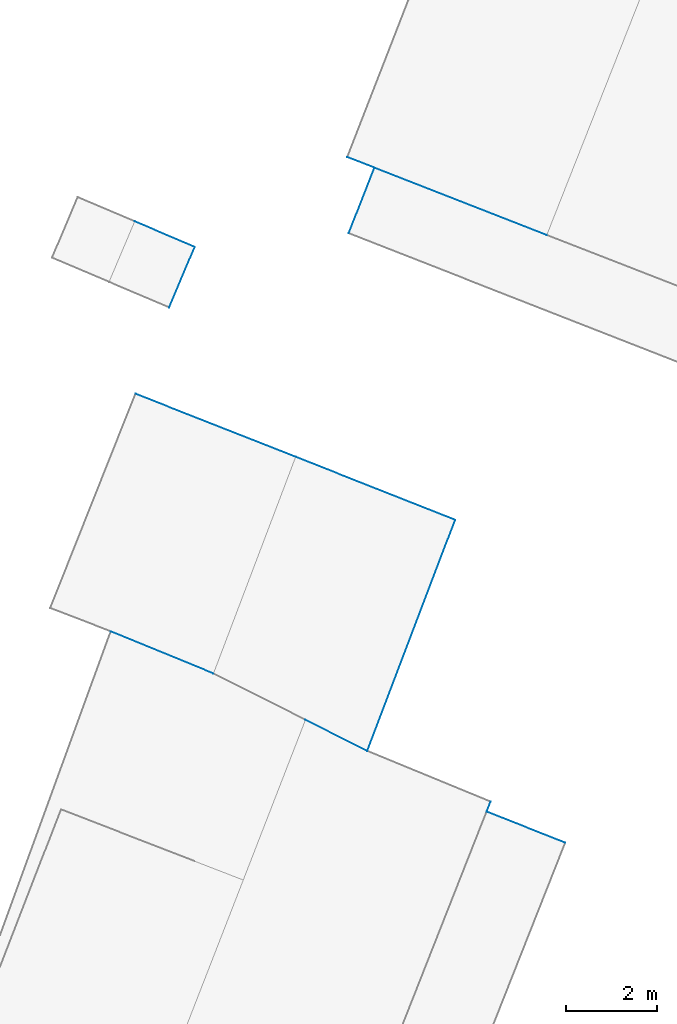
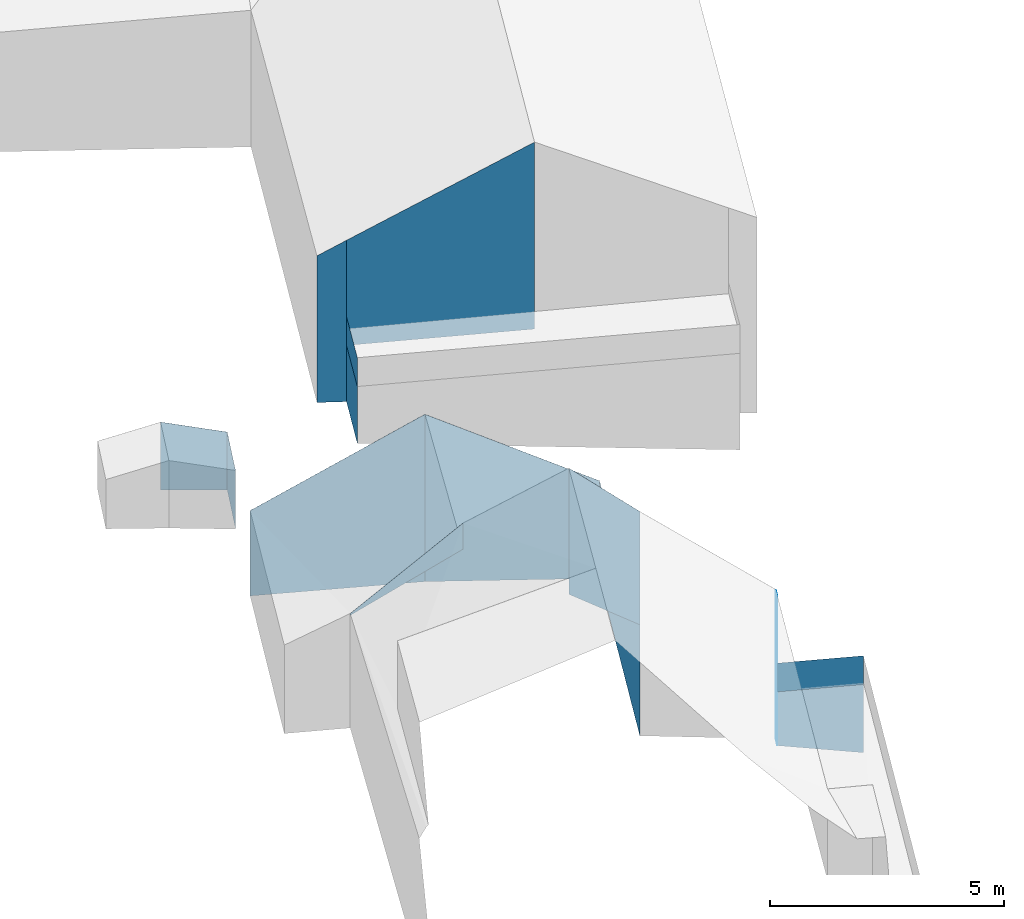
# Not in any storey, part 33 of 57: 17 walls.
"""IFC4 building model written with IfcOpenShell, lengths in metres."""

import ifcopenshell
import ifcopenshell.guid

model = None  # the IFC model being written
_history = None  # IfcOwnerHistory: only IFC2X3 demands one
_inside = {}  # id of a spatial element -> (the spatial element, [elements in it])
_under = {}  # id of a project, library or spatial element -> (it, [spatial elements below it])
_declared = {}  # id of a project -> (the project, [libraries it declares])
_typed = {}  # id of a type object -> (the type object, [elements of that type])
_made_of = {}  # id of a material, layer set ... -> (it, [elements and type objects made of it])


def new_model(schema):
    """Start an empty IFC model of exactly this schema.

    Asked for "IFC4X3", IfcOpenShell would pick the latest addendum, in which some entities
    have other attributes; the version numbers below select the first issue.
    IFC2X3 requires an IfcOwnerHistory on every rooted entity: one is made here for all.
    """
    global model, _history
    if schema == "IFC4X3":
        model = ifcopenshell.file(schema_version=(4, 3, 0, 0))
    else:
        model = ifcopenshell.file(schema=schema)
    _inside.clear()
    _under.clear()
    _declared.clear()
    _typed.clear()
    _made_of.clear()
    _history = None
    if model.schema == "IFC2X3":
        org = make("IfcOrganization", Name="unknown")
        user = make(
            "IfcPersonAndOrganization",
            ThePerson=make("IfcPerson", FamilyName="unknown"),
            TheOrganization=org,
        )
        app = make(
            "IfcApplication",
            ApplicationDeveloper=org,
            Version="unknown",
            ApplicationFullName="unknown",
            ApplicationIdentifier="unknown",
        )
        _history = make(
            "IfcOwnerHistory",
            OwningUser=user,
            OwningApplication=app,
            ChangeAction="ADDED",
            CreationDate=0,
        )
    return model


def make(cls, **values):
    """One entity of the class cls with the attributes given. An attribute that is None is left unset."""
    return model.create_entity(
        cls, **{name: value for name, value in values.items() if value is not None}
    )


def entity(cls, *values):
    """Any entity or typed value of the class cls, its attributes in the order of the schema. None: left unset."""
    e = model.create_entity(cls)
    for i, value in enumerate(values):
        if value is not None:
            e[i] = value
    return e


def rooted(cls, **values):
    """An entity with a GlobalId (a new one), such as an element, a storey or a relation."""
    return make(cls, GlobalId=ifcopenshell.guid.new(), OwnerHistory=_history, **values)


def si_unit(unit_type, name, prefix=None):
    """IfcSIUnit, for example si_unit("LENGTHUNIT", "METRE", prefix="MILLI")."""
    return make("IfcSIUnit", UnitType=unit_type, Prefix=prefix, Name=name)


def converted_unit(unit_type, name, factor, base, dimensions=None, offset=None):
    """IfcConversionBasedUnit, such as the inch: factor (a typed value) times the base unit."""
    return make(
        "IfcConversionBasedUnit"
        if offset is None
        else "IfcConversionBasedUnitWithOffset",
        ConversionOffset=offset,
        Dimensions=None
        if dimensions is None
        else entity("IfcDimensionalExponents", *dimensions),
        UnitType=unit_type,
        Name=name,
        ConversionFactor=make(
            "IfcMeasureWithUnit", ValueComponent=factor, UnitComponent=base
        ),
    )


def assignment(units):
    """IfcUnitAssignment: the units of a project."""
    return None if units is None else make("IfcUnitAssignment", Units=units)


def point(xyz):
    """IfcCartesianPoint."""
    return None if xyz is None else make("IfcCartesianPoint", Coordinates=xyz)


def direction(xyz):
    """IfcDirection."""
    return None if xyz is None else make("IfcDirection", DirectionRatios=xyz)


def frame(location, z_axis=None, x_axis=None):
    """IfcAxis2Placement3D, a coordinate frame: its origin and axes. An axis left out is left unset."""
    return make(
        "IfcAxis2Placement3D",
        Location=point(location),
        Axis=direction(z_axis),
        RefDirection=direction(x_axis),
    )


def origin():
    """The frame at (0, 0, 0) with its axes left unset."""
    return frame((0.0, 0.0, 0.0))


def place(relative_to, where):
    """IfcLocalPlacement: puts the frame where relative to a parent placement (None: the world)."""
    return make(
        "IfcLocalPlacement", PlacementRelTo=relative_to, RelativePlacement=where
    )


def context(
    kind, dimensions, precision=None, world=None, true_north=None, identifier=None
):
    """IfcGeometricRepresentationContext, for example the 3D "Model" context."""
    return make(
        "IfcGeometricRepresentationContext",
        ContextIdentifier=identifier,
        ContextType=kind,
        CoordinateSpaceDimension=dimensions,
        Precision=precision,
        WorldCoordinateSystem=world,
        TrueNorth=true_north,
    )


def subcontext(parent, identifier, kind, view, scale=None):
    """IfcGeometricRepresentationSubContext, for example "Body" below "Model"."""
    return make(
        "IfcGeometricRepresentationSubContext",
        ContextIdentifier=identifier,
        ContextType=kind,
        ParentContext=parent,
        TargetScale=scale,
        TargetView=view,
    )


def project(units=None, contexts=None):
    """IfcProject with its units and contexts."""
    return rooted(
        "IfcProject",
        Name="project",
        RepresentationContexts=contexts,
        UnitsInContext=assignment(units),
    )


def spatial(cls, under=None, at=None, **own):
    """A site, building, storey or space (cls), placed at a placement, below another one or the project."""
    s = rooted(cls, ObjectPlacement=at, **own)
    if under is not None:
        _under.setdefault(under.id(), (under, []))[1].append(s)
    return s


def faces_of(points, faces, orient=None, outer=None):
    """IfcFace entities. A face is a list of loops; a loop is a list of indices into points, from 0.

    orient and outer hold one flag for each loop. By default every Orientation is true, the
    first loop of a face is its IfcFaceOuterBound and the others are IfcFaceBound.
    """
    made = []
    for i, loops in enumerate(faces):
        bounds = []
        for j, loop in enumerate(loops):
            is_outer = j == 0 if outer is None else outer[i][j]
            bounds.append(
                make(
                    "IfcFaceOuterBound" if is_outer else "IfcFaceBound",
                    Bound=make("IfcPolyLoop", Polygon=[points[k] for k in loop]),
                    Orientation=True if orient is None else orient[i][j],
                )
            )
        made.append(make("IfcFace", Bounds=bounds))
    return made


def face_set(faces, orient=None, outer=None):
    """The faces of one IfcConnectedFaceSet. surface_model builds it on its shared points."""
    return ("IfcConnectedFaceSet", faces, orient, outer)


def surface_model(cls, points, shells):
    """IfcFaceBasedSurfaceModel or IfcShellBasedSurfaceModel (cls): surfaces that need not close."""
    shared = [point(p) for p in points]
    made = [make(c, CfsFaces=faces_of(shared, fs, o, b)) for c, fs, o, b in shells]
    if cls == "IfcFaceBasedSurfaceModel":
        return make(cls, FbsmFaces=made)
    return make(cls, SbsmBoundary=made)


def shape(context_of_items, identifier, shape_type, items):
    """IfcShapeRepresentation: the items that make up one representation, for example the "Body"."""
    return make(
        "IfcShapeRepresentation",
        ContextOfItems=context_of_items,
        RepresentationIdentifier=identifier,
        RepresentationType=shape_type,
        Items=items,
    )


def made_of(thing, what):
    """Note that an element or type object is made of a material, layer set ...; save() writes the relation."""
    if what is not None:
        _made_of.setdefault(what.id(), (what, []))[1].append(thing)
    return thing


def element(
    cls,
    number,
    at=None,
    inside=None,
    cuts=None,
    type_object=None,
    material=None,
    context=None,
    identifier="Body",
    shape_type=None,
    held_by="IfcProductDefinitionShape",
    body=None,
    shapes=None,
    **own,
):
    """One element of the class cls, such as IfcWall. Its Tag is "e" and its number.

    at: its placement. inside: the storey or other place that contains it. cuts: it is an
    opening in that element (IfcRelVoidsElement). A single representation is given by context,
    identifier, shape_type and body (its items); several are given by shapes. held_by: the class
    of the entity that holds the representations. save() writes the other relations.
    """
    e = rooted(cls, Tag="e%d" % number, ObjectPlacement=at, **own)
    if body is not None:
        shapes = [shape(context, identifier, shape_type, body)]
    if shapes is not None:
        e.Representation = make(held_by, Representations=shapes)
    if inside is not None:
        _inside.setdefault(inside.id(), (inside, []))[1].append(e)
    if cuts is not None:
        rooted(
            "IfcRelVoidsElement", RelatingBuildingElement=cuts, RelatedOpeningElement=e
        )
    if type_object is not None:
        _typed.setdefault(type_object.id(), (type_object, []))[1].append(e)
    return made_of(e, material)


def aggregate(whole, parts):
    """IfcRelAggregates: a whole, such as a stair, and the parts it consists of."""
    return rooted("IfcRelAggregates", RelatingObject=whole, RelatedObjects=parts)


def save(model, path):
    """Write the relations noted so far, then the file.

    IfcRelAggregates (storeys below a building ...), IfcRelContainedInSpatialStructure (elements
    in a storey), IfcRelDefinesByType, IfcRelAssociatesMaterial and IfcRelDeclares: one each for
    every whole, place, type object, material and project.
    """
    for whole, parts in _under.values():
        aggregate(whole, parts)
    for where, things in _inside.values():
        rooted(
            "IfcRelContainedInSpatialStructure",
            RelatedElements=things,
            RelatingStructure=where,
        )
    for kind, things in _typed.values():
        rooted("IfcRelDefinesByType", RelatedObjects=things, RelatingType=kind)
    for what, things in _made_of.values():
        rooted("IfcRelAssociatesMaterial", RelatedObjects=things, RelatingMaterial=what)
    for by, libraries in _declared.values():
        rooted("IfcRelDeclares", RelatingContext=by, RelatedDefinitions=libraries)
    model.write(path)


model = new_model("IFC4")

# Units and contexts
model_context = context("Model", 3, precision=1e-05, world=origin())
body_context = subcontext(model_context, "Body", "Model", "MODEL_VIEW")
ifc_project = project(units=[converted_unit("PLANEANGLEUNIT", "DEGREE", entity("IfcRatioMeasure", 0.0174532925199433), si_unit("PLANEANGLEUNIT", "RADIAN"), dimensions=[0, 0, 0, 0, 0, 0, 0]), si_unit("AREAUNIT", "SQUARE_METRE"), si_unit("LENGTHUNIT", "METRE")], contexts=[model_context])

# Site, building
site_placement = place(None, origin())
site = spatial("IfcSite", under=ifc_project, at=site_placement, Name="_site")
building_1_placement = place(site_placement, origin())
building_1 = spatial("IfcBuilding", under=site, at=building_1_placement, Name="_building")

# Walls
wall_1_placement = place(building_1_placement, origin())
element("IfcWall", 1, at=wall_1_placement, inside=building_1, Name="Wall", PredefinedType="NOTDEFINED", context=body_context, shape_type="SurfaceModel", body=[
    surface_model("IfcFaceBasedSurfaceModel", [(271.97, 95.589, 113.35), (273.325, 94.906, 112.16), (273.325, 94.906, 109.21), (271.97, 95.589, 110.062)], [face_set([[[0, 1, 2, 3]]])]),
])
wall_2_placement = place(building_1_placement, origin())
element("IfcWall", 2, at=wall_2_placement, inside=building_1, Name="Wall", PredefinedType="NOTDEFINED", context=body_context, shape_type="SurfaceModel", body=[
    surface_model("IfcFaceBasedSurfaceModel", [(267.703, 97.529, 109.88), (269.953, 96.606, 112.01), (269.953, 96.606, 111.33), (267.703, 97.529, 109.83)], [face_set([[[0, 1, 2, 3]]])]),
])
wall_3_placement = place(building_1_placement, origin())
element("IfcWall", 3, at=wall_3_placement, inside=building_1, Name="Wall", PredefinedType="NOTDEFINED", context=body_context, shape_type="SurfaceModel", body=[
    surface_model("IfcFaceBasedSurfaceModel", [(275.946, 93.574, 107.4), (277.671, 92.893, 107.4), (277.671, 92.893, 105.576), (275.946, 93.574, 105.95)], [face_set([[[0, 1, 2, 3]]])]),
])
wall_4_placement = place(building_1_placement, origin())
element("IfcWall", 4, at=wall_4_placement, inside=building_1, Name="Wall", PredefinedType="NOTDEFINED", context=body_context, shape_type="SurfaceModel", body=[
    surface_model("IfcFaceBasedSurfaceModel", [(276.031, 93.792, 109.86), (275.946, 93.574, 109.86), (275.946, 93.574, 105.95), (276.031, 93.792, 105.966)], [face_set([[[0, 1, 2, 3]]])]),
])
for number, where, name in (
    (5, (0.0, 0.0, 0.0), "Wall"),
    (6, (0.0, 0.0, 0.0), "Wall"),
):
    element("IfcWall", number, at=place(building_1_placement, frame(where)), inside=building_1, Name=name, PredefinedType="NOTDEFINED", context=body_context, shape_type="SurfaceModel", body=[
        surface_model("IfcFaceBasedSurfaceModel", [(277.671, 92.893, 107.35), (275.946, 93.574, 107.35), (275.946, 93.574, 108.1), (277.671, 92.893, 108.1)], [face_set([[[0, 1, 2, 3]]])]),
    ])

# Building
building_2_placement = place(site_placement, origin())
building_2 = spatial("IfcBuilding", under=site, at=building_2_placement, Name="_building")

# Walls
wall_5_placement = place(building_2_placement, origin())
element("IfcWall", 7, at=wall_5_placement, inside=building_2, Name="Wall", PredefinedType="NOTDEFINED", context=body_context, shape_type="SurfaceModel", body=[
    surface_model("IfcFaceBasedSurfaceModel", [(275.255, 99.974, 109.21), (273.325, 94.906, 109.21), (273.325, 94.906, 106.317), (275.255, 99.974, 106.667)], [face_set([[[0, 1, 2, 3]]])]),
])
wall_6_placement = place(building_2_placement, origin())
element("IfcWall", 8, at=wall_6_placement, inside=building_2, Name="Wall", PredefinedType="NOTDEFINED", context=body_context, shape_type="SurfaceModel", body=[
    surface_model("IfcFaceBasedSurfaceModel", [(271.755, 101.357, 111.33), (275.255, 99.974, 109.21), (275.255, 99.974, 106.667), (271.755, 101.357, 106.971)], [face_set([[[0, 1, 2, 3]]])]),
])
wall_7_placement = place(building_2_placement, origin())
element("IfcWall", 9, at=wall_7_placement, inside=building_2, Name="Wall", PredefinedType="NOTDEFINED", context=body_context, shape_type="SurfaceModel", body=[
    surface_model("IfcFaceBasedSurfaceModel", [(268.245, 102.739, 109.21), (271.755, 101.357, 111.33), (271.755, 101.357, 106.971), (268.245, 102.739, 106.988)], [face_set([[[0, 1, 2, 3]]])]),
])

# Building
building_3_placement = place(site_placement, origin())
building_3 = spatial("IfcBuilding", under=site, at=building_3_placement, Name="_building")

# Walls
wall_8_placement = place(building_3_placement, origin())
element("IfcWall", 10, at=wall_8_placement, inside=building_3, Name="Wall", PredefinedType="NOTDEFINED", context=body_context, shape_type="SurfaceModel", body=[
    surface_model("IfcFaceBasedSurfaceModel", [(277.263, 106.222, 113.54), (273.485, 107.7, 111.41), (273.485, 107.7, 108.67), (277.263, 106.222, 108.67)], [face_set([[[0, 1, 2, 3]]])]),
])
wall_9_placement = place(building_3_placement, origin())
element("IfcWall", 11, at=wall_9_placement, inside=building_3, Name="Wall", PredefinedType="NOTDEFINED", context=body_context, shape_type="SurfaceModel", body=[
    surface_model("IfcFaceBasedSurfaceModel", [(272.921, 106.262, 109.11), (273.485, 107.7, 109.11), (273.485, 107.7, 107.207), (272.921, 106.262, 107.187)], [face_set([[[0, 1, 2, 3]]])]),
])
wall_10_placement = place(building_3_placement, origin())
element("IfcWall", 12, at=wall_10_placement, inside=building_3, Name="Wall", PredefinedType="NOTDEFINED", context=body_context, shape_type="SurfaceModel", body=[
    surface_model("IfcFaceBasedSurfaceModel", [(273.485, 107.7, 111.41), (272.89, 107.934, 111.07), (272.89, 107.934, 107.25), (273.485, 107.7, 107.207)], [face_set([[[0, 1, 2, 3]]])]),
])
wall_11_placement = place(building_3_placement, origin())
element("IfcWall", 13, at=wall_11_placement, inside=building_3, Name="Wall", PredefinedType="NOTDEFINED", context=body_context, shape_type="SurfaceModel", body=[
    surface_model("IfcFaceBasedSurfaceModel", [(272.921, 106.262, 108.67), (273.485, 107.7, 108.67), (273.485, 107.7, 107.207), (272.921, 106.262, 107.187)], [face_set([[[0, 1, 2, 3]]])]),
])
for number, where, name in (
    (14, (0.0, 0.0, 0.0), "Wall"),
    (15, (0.0, 0.0, 0.0), "Wall"),
):
    element("IfcWall", number, at=place(building_3_placement, frame(where)), inside=building_3, Name=name, PredefinedType="NOTDEFINED", context=body_context, shape_type="SurfaceModel", body=[
        surface_model("IfcFaceBasedSurfaceModel", [(272.921, 106.262, 108.67), (273.485, 107.7, 108.67), (273.485, 107.7, 109.42), (272.921, 106.262, 109.42)], [face_set([[[0, 1, 2, 3]]])]),
    ])

# Building
building_4_placement = place(site_placement, origin())
building_4 = spatial("IfcBuilding", under=site, at=building_4_placement, Name="_building")

# Walls
wall_12_placement = place(building_4_placement, origin())
element("IfcWall", 16, at=wall_12_placement, inside=building_4, Name="Wall", PredefinedType="NOTDEFINED", context=body_context, shape_type="SurfaceModel", body=[
    surface_model("IfcFaceBasedSurfaceModel", [(269.542, 105.961, 108.85), (268.98, 104.634, 108.85), (268.98, 104.634, 107.324), (269.542, 105.961, 107.344)], [face_set([[[0, 1, 2, 3]]])]),
])
wall_13_placement = place(building_4_placement, origin())
element("IfcWall", 17, at=wall_13_placement, inside=building_4, Name="Wall", PredefinedType="NOTDEFINED", context=body_context, shape_type="SurfaceModel", body=[
    surface_model("IfcFaceBasedSurfaceModel", [(268.224, 106.523, 109.23), (269.542, 105.961, 108.85), (269.542, 105.961, 107.344), (268.224, 106.523, 107.461)], [face_set([[[0, 1, 2, 3]]])]),
])

save(model, "model.ifc")
